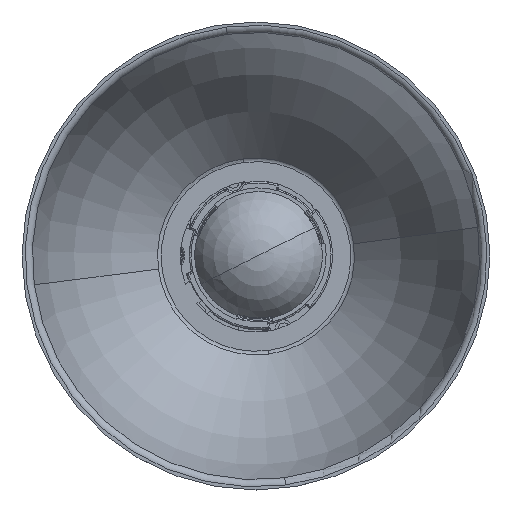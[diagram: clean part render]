
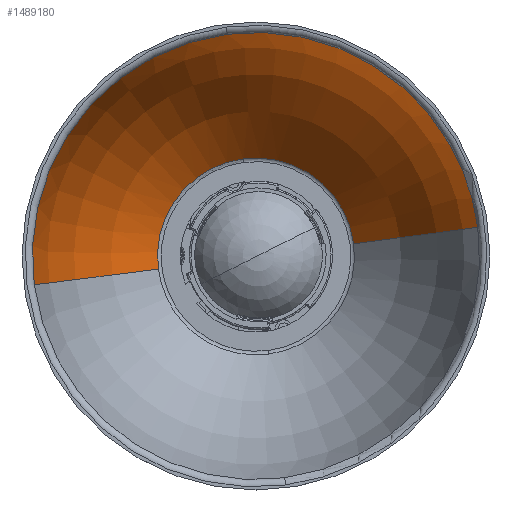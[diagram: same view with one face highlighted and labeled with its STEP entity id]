
A CAD part, top view. The second image highlights one B-rep face of the part: STEP entity #1489180.
In plain terms, the highlighted toroidal (fillet/blend) face has major radius 37.425 mm and minor radius 81.159 mm.
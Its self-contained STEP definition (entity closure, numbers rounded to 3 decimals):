
#1488440=CARTESIAN_POINT('',(0.007,0.006,
-5.13));
#1488450=DIRECTION('',(0.,0.,1.));
#1488460=DIRECTION('',(0.795,0.607,
0.));
#1488470=AXIS2_PLACEMENT_3D('',#1488440,#1488450,#1488460);
#1488480=CIRCLE('',#1488470,18.932);
#1488530=CARTESIAN_POINT('',(0.007,18.939,
-5.13));
#1488540=VERTEX_POINT('',#1488530);
#1488570=CARTESIAN_POINT('',(-18.925,0.006,
-5.13));
#1488580=VERTEX_POINT('',#1488570);
#1488590=EDGE_CURVE('',#1488540,#1488580,#1488480,.T.);
#1488730=CARTESIAN_POINT('',(0.007,0.006,
-63.53));
#1488740=DIRECTION('',(0.,0.,1.));
#1488750=DIRECTION('',(0.,-1.,0.));
#1488760=AXIS2_PLACEMENT_3D('',#1488730,#1488740,#1488750);
#1488770=DEGENERATE_TOROIDAL_SURFACE('',#1488760,37.425,
81.159,.F.);
#1488780=CARTESIAN_POINT('',(0.007,0.006,
-52.736));
#1488790=DIRECTION('',(0.,0.,1.));
#1488800=DIRECTION('',(-0.385,-0.923,
0.));
#1488810=AXIS2_PLACEMENT_3D('',#1488780,#1488790,#1488800);
#1488820=CIRCLE('',#1488810,43.012);
#1488830=CARTESIAN_POINT('',(-16.539,-39.696,
-52.736));
#1488840=VERTEX_POINT('',#1488830);
#1488850=CARTESIAN_POINT('',(0.007,-43.006,
-52.736));
#1488860=VERTEX_POINT('',#1488850);
#1488870=EDGE_CURVE('',#1488840,#1488860,#1488820,.T.);
#1488880=ORIENTED_EDGE('',*,*,#1488870,.F.);
#1488890=CARTESIAN_POINT('',(0.007,37.431,
-63.53));
#1488900=DIRECTION('',(1.,0.,0.));
#1488910=DIRECTION('',(0.,1.,0.));
#1488920=AXIS2_PLACEMENT_3D('',#1488890,#1488900,#1488910);
#1488930=CIRCLE('',#1488920,81.159);
#1488940=CARTESIAN_POINT('',(0.007,-18.926,
-5.13));
#1488950=VERTEX_POINT('',#1488940);
#1488960=EDGE_CURVE('',#1488950,#1488860,#1488930,.T.);
#1488970=ORIENTED_EDGE('',*,*,#1488960,.T.);
#1488980=EDGE_CURVE('',#1488580,#1488950,#1488480,.T.);
#1488990=ORIENTED_EDGE('',*,*,#1488980,.T.);
#1489000=ORIENTED_EDGE('',*,*,#1488590,.T.);
#1489010=CARTESIAN_POINT('',(0.007,-37.419,
-63.53));
#1489020=DIRECTION('',(-1.,0.,0.));
#1489030=DIRECTION('',(0.,-1.,0.));
#1489040=AXIS2_PLACEMENT_3D('',#1489010,#1489020,#1489030);
#1489050=CIRCLE('',#1489040,81.159);
#1489060=CARTESIAN_POINT('',(0.007,43.019,
-52.736));
#1489070=VERTEX_POINT('',#1489060);
#1489080=EDGE_CURVE('',#1488540,#1489070,#1489050,.T.);
#1489090=ORIENTED_EDGE('',*,*,#1489080,.F.);
#1489100=CARTESIAN_POINT('',(-43.005,0.006,
-52.736));
#1489110=VERTEX_POINT('',#1489100);
#1489120=EDGE_CURVE('',#1489070,#1489110,#1488820,.T.);
#1489130=ORIENTED_EDGE('',*,*,#1489120,.F.);
#1489140=EDGE_CURVE('',#1489110,#1488840,#1488820,.T.);
#1489150=ORIENTED_EDGE('',*,*,#1489140,.F.);
#1489160=EDGE_LOOP('',(#1489150,#1489130,#1489090,#1489000,#1488990,
#1488970,#1488880));
#1489170=FACE_OUTER_BOUND('',#1489160,.T.);
#1489180=ADVANCED_FACE('',(#1489170),#1488770,.T.);
